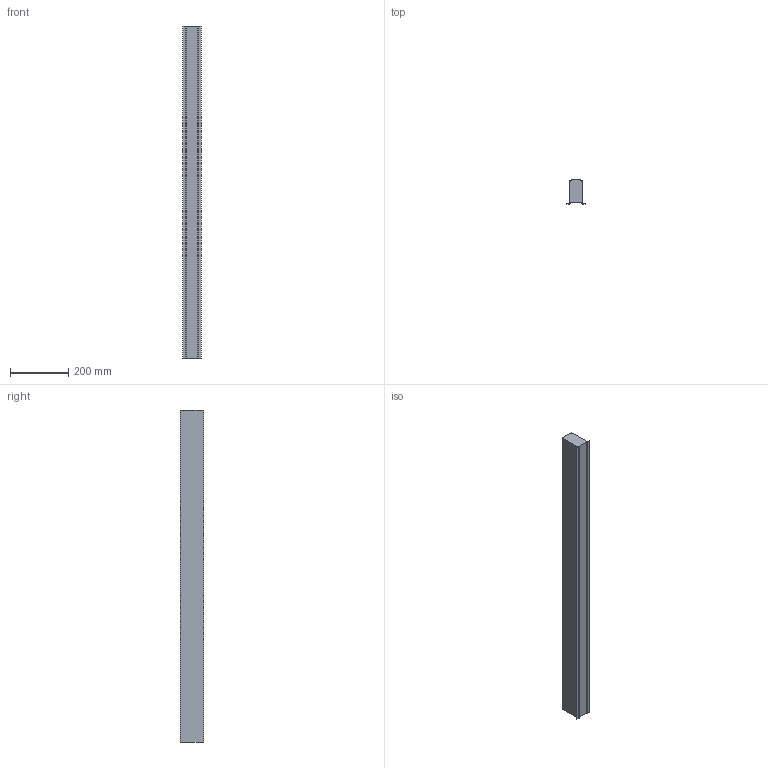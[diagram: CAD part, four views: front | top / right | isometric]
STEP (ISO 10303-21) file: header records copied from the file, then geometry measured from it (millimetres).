
FILE_DESCRIPTION (( 'STEP AP203' ), '1' );
FILE_NAME ('mLight_Swerve 47 Recessed_L1136 mm.STEP', '2020-04-01T09:43:20', ( '' ), ( '' ), 'SwSTEP 2.0', 'SolidWorks 2017', '' );
FILE_SCHEMA (( 'CONFIG_CONTROL_DESIGN' ));
Length unit declared in the file: millimetre
Products named in the file (1): mLight_Swerve 47 Recessed_L1136 mm
Bounding box: 63 x 80.63 x 1136 mm (x, y, z)
Volume: 4124809.3 mm3; surface area: 357162 mm2
Topology: 1 solids, 1 shells, 54 faces, 156 edges, 104 vertices
Faces by surface type: cylinder 28, plane 26
Entity records: 1873 total; most frequent: DIRECTION 322, CARTESIAN_POINT 315, ORIENTED_EDGE 312, EDGE_CURVE 156, AXIS2_PLACEMENT_3D 111, VERTEX_POINT 104, VECTOR 100, LINE 100
